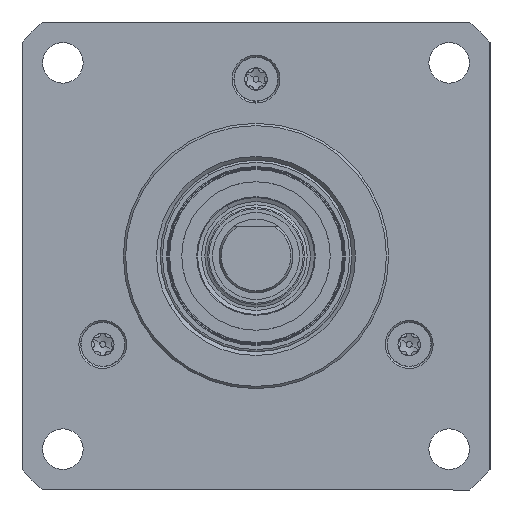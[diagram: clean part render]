
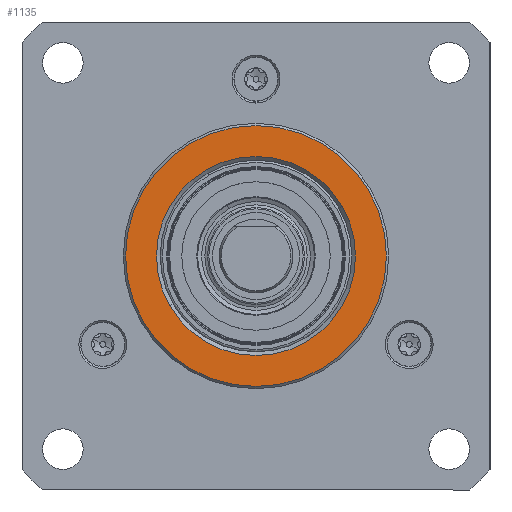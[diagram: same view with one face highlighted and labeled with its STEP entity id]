
A CAD part, left-side view. The second image highlights one B-rep face of the part: STEP entity #1135.
In plain terms, the highlighted planar face has unit normal (-1, 0, 0).
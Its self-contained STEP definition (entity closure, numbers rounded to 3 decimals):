
#1135=ADVANCED_FACE('',(#3323,#3324),#3325,.T.);
#3323=FACE_OUTER_BOUND('',#6702,.T.);
#3324=FACE_BOUND('',#6703,.T.);
#3325=PLANE('',#6704);
#6702=EDGE_LOOP('',(#23371,#23372));
#6703=EDGE_LOOP('',(#23373,#23374));
#6704=AXIS2_PLACEMENT_3D('',#23375,#23376,#23377);
#23371=ORIENTED_EDGE('',*,*,#32460,.T.);
#23372=ORIENTED_EDGE('',*,*,#32461,.T.);
#23373=ORIENTED_EDGE('',*,*,#32462,.F.);
#23374=ORIENTED_EDGE('',*,*,#32463,.F.);
#23375=CARTESIAN_POINT('',(0.,-13.51,7.8));
#23376=DIRECTION('',(-1.0,0.,0.));
#23377=DIRECTION('',(0.,1.0,0.0));
#32460=EDGE_CURVE('',#36371,#36372,#36373,.T.);
#32461=EDGE_CURVE('',#36372,#36371,#36374,.T.);
#32462=EDGE_CURVE('',#36375,#36376,#36377,.T.);
#32463=EDGE_CURVE('',#36376,#36375,#36378,.T.);
#36371=VERTEX_POINT('',#42176);
#36372=VERTEX_POINT('',#42177);
#36373=CIRCLE('',#42178,17.7);
#36374=CIRCLE('',#42179,17.7);
#36375=VERTEX_POINT('',#42180);
#36376=VERTEX_POINT('',#42181);
#36377=CIRCLE('',#42182,13.5);
#36378=CIRCLE('',#42183,13.5);
#42176=CARTESIAN_POINT('',(0.,-15.329,8.85));
#42177=CARTESIAN_POINT('',(0.,15.329,-8.85));
#42178=AXIS2_PLACEMENT_3D('',#55394,#55395,#55396);
#42179=AXIS2_PLACEMENT_3D('',#55397,#55398,#55399);
#42180=CARTESIAN_POINT('',(0.,-11.691,6.75));
#42181=CARTESIAN_POINT('',(0.,11.691,-6.75));
#42182=AXIS2_PLACEMENT_3D('',#55400,#55401,#55402);
#42183=AXIS2_PLACEMENT_3D('',#55403,#55404,#55405);
#55394=CARTESIAN_POINT('',(0.,0.,0.));
#55395=DIRECTION('',(-1.0,0.,0.));
#55396=DIRECTION('',(0.,-0.866,0.5));
#55397=CARTESIAN_POINT('',(0.,0.,0.));
#55398=DIRECTION('',(-1.0,0.,0.));
#55399=DIRECTION('',(0.,-0.866,0.5));
#55400=CARTESIAN_POINT('',(0.,0.,0.));
#55401=DIRECTION('',(-1.0,0.,0.));
#55402=DIRECTION('',(0.,-0.866,0.5));
#55403=CARTESIAN_POINT('',(0.,0.,0.));
#55404=DIRECTION('',(-1.0,0.,0.));
#55405=DIRECTION('',(0.,-0.866,0.5));
